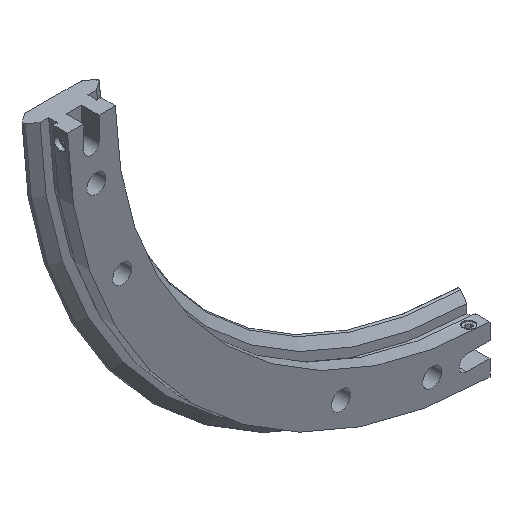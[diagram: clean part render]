
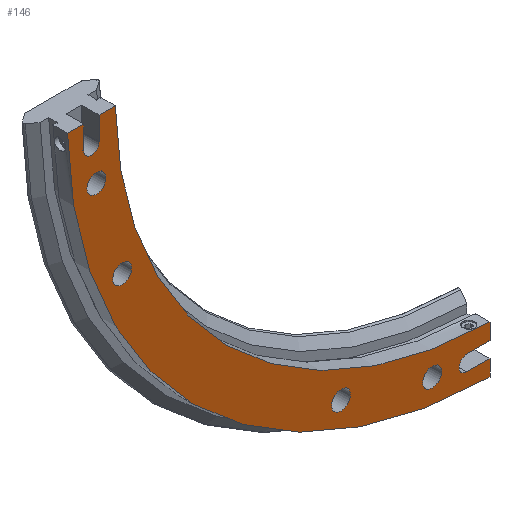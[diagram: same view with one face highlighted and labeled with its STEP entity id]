
A CAD part, isometric view. The second image highlights one B-rep face of the part: STEP entity #146.
In plain terms, the highlighted planar face has unit normal (0, -1, 0).
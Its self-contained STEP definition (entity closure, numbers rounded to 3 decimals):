
#146 = ADVANCED_FACE( '', ( #320, #321, #322, #323, #324 ), #325, .T. );
#320 = FACE_BOUND( '', #500, .T. );
#321 = FACE_BOUND( '', #501, .T. );
#322 = FACE_BOUND( '', #502, .T. );
#323 = FACE_BOUND( '', #503, .T. );
#324 = FACE_OUTER_BOUND( '', #504, .T. );
#325 = PLANE( '', #505 );
#500 = EDGE_LOOP( '', ( #1035 ) );
#501 = EDGE_LOOP( '', ( #1036 ) );
#502 = EDGE_LOOP( '', ( #1037 ) );
#503 = EDGE_LOOP( '', ( #1038 ) );
#504 = EDGE_LOOP( '', ( #1039, #1040, #1041, #1042, #1043, #1044, #1045, #1046, #1047, #1048, #1049, #1050 ) );
#505 = AXIS2_PLACEMENT_3D( '', #1051, #1052, #1053 );
#1035 = ORIENTED_EDGE( '', *, *, #1223, .F. );
#1036 = ORIENTED_EDGE( '', *, *, #1219, .F. );
#1037 = ORIENTED_EDGE( '', *, *, #1112, .F. );
#1038 = ORIENTED_EDGE( '', *, *, #1116, .F. );
#1039 = ORIENTED_EDGE( '', *, *, #1097, .T. );
#1040 = ORIENTED_EDGE( '', *, *, #1102, .T. );
#1041 = ORIENTED_EDGE( '', *, *, #1125, .T. );
#1042 = ORIENTED_EDGE( '', *, *, #1121, .T. );
#1043 = ORIENTED_EDGE( '', *, *, #1070, .T. );
#1044 = ORIENTED_EDGE( '', *, *, #1111, .T. );
#1045 = ORIENTED_EDGE( '', *, *, #1109, .T. );
#1046 = ORIENTED_EDGE( '', *, *, #1107, .T. );
#1047 = ORIENTED_EDGE( '', *, *, #1086, .T. );
#1048 = ORIENTED_EDGE( '', *, *, #1235, .F. );
#1049 = ORIENTED_EDGE( '', *, *, #1126, .T. );
#1050 = ORIENTED_EDGE( '', *, *, #1100, .T. );
#1051 = CARTESIAN_POINT( '', ( -98.8, 0., 0. ) );
#1052 = DIRECTION( '', ( 0., -1., 0. ) );
#1053 = DIRECTION( '', ( 0., 0., -1. ) );
#1070 = EDGE_CURVE( '', #1241, #1239, #1242, .T. );
#1086 = EDGE_CURVE( '', #1273, #1271, #1274, .T. );
#1097 = EDGE_CURVE( '', #1293, #1294, #1295, .T. );
#1100 = EDGE_CURVE( '', #1298, #1293, #1299, .T. );
#1102 = EDGE_CURVE( '', #1294, #1301, #1302, .T. );
#1107 = EDGE_CURVE( '', #1309, #1273, #1310, .T. );
#1109 = EDGE_CURVE( '', #1312, #1309, #1313, .T. );
#1111 = EDGE_CURVE( '', #1239, #1312, #1315, .T. );
#1112 = EDGE_CURVE( '', #1316, #1316, #1317, .T. );
#1116 = EDGE_CURVE( '', #1324, #1324, #1325, .T. );
#1121 = EDGE_CURVE( '', #1334, #1241, #1335, .T. );
#1125 = EDGE_CURVE( '', #1301, #1334, #1341, .T. );
#1126 = EDGE_CURVE( '', #1342, #1298, #1343, .T. );
#1219 = EDGE_CURVE( '', #1502, #1502, #1503, .T. );
#1223 = EDGE_CURVE( '', #1510, #1510, #1511, .T. );
#1235 = EDGE_CURVE( '', #1342, #1271, #1523, .T. );
#1239 = VERTEX_POINT( '', #1528 );
#1241 = VERTEX_POINT( '', #1531 );
#1242 = LINE( '', #1532, #1533 );
#1271 = VERTEX_POINT( '', #1596 );
#1273 = VERTEX_POINT( '', #1599 );
#1274 = LINE( '', #1600, #1601 );
#1293 = VERTEX_POINT( '', #1676 );
#1294 = VERTEX_POINT( '', #1677 );
#1295 = CIRCLE( '', #1678, 2. );
#1298 = VERTEX_POINT( '', #1683 );
#1299 = LINE( '', #1684, #1685 );
#1301 = VERTEX_POINT( '', #1688 );
#1302 = LINE( '', #1689, #1690 );
#1309 = VERTEX_POINT( '', #1700 );
#1310 = LINE( '', #1701, #1702 );
#1312 = VERTEX_POINT( '', #1705 );
#1313 = CIRCLE( '', #1706, 2. );
#1315 = LINE( '', #1709, #1710 );
#1316 = VERTEX_POINT( '', #1711 );
#1317 = CIRCLE( '', #1712, 2.45 );
#1324 = VERTEX_POINT( '', #1719 );
#1325 = CIRCLE( '', #1720, 2.45 );
#1334 = VERTEX_POINT( '', #1778 );
#1335 = CIRCLE( '', #1779, 111.2 );
#1341 = LINE( '', #1835, #1836 );
#1342 = VERTEX_POINT( '', #1837 );
#1343 = LINE( '', #1838, #1839 );
#1502 = VERTEX_POINT( '', #2154 );
#1503 = CIRCLE( '', #2155, 2.45 );
#1510 = VERTEX_POINT( '', #2162 );
#1511 = CIRCLE( '', #2163, 2.45 );
#1523 = CIRCLE( '', #2175, 98.8 );
#1528 = CARTESIAN_POINT( '', ( -1.5, 0., -107. ) );
#1531 = CARTESIAN_POINT( '', ( -1.5, 0., -111.19 ) );
#1532 = CARTESIAN_POINT( '', ( -1.5, 0., -115.185 ) );
#1533 = VECTOR( '', #2178, 1000. );
#1596 = CARTESIAN_POINT( '', ( -1.5, 0., -98.789 ) );
#1599 = CARTESIAN_POINT( '', ( -1.5, 0., -103. ) );
#1600 = CARTESIAN_POINT( '', ( -1.5, 0., -115.185 ) );
#1601 = VECTOR( '', #2188, 1000. );
#1676 = CARTESIAN_POINT( '', ( -103., 0., -7.5 ) );
#1677 = CARTESIAN_POINT( '', ( -107., 0., -7.5 ) );
#1678 = AXIS2_PLACEMENT_3D( '', #2205, #2206, #2207 );
#1683 = CARTESIAN_POINT( '', ( -103., 0., -1.5 ) );
#1684 = CARTESIAN_POINT( '', ( -103., 0., 0. ) );
#1685 = VECTOR( '', #2210, 1000. );
#1688 = CARTESIAN_POINT( '', ( -107., 0., -1.5 ) );
#1689 = CARTESIAN_POINT( '', ( -107., 0., -7.5 ) );
#1690 = VECTOR( '', #2212, 1000. );
#1700 = CARTESIAN_POINT( '', ( -7.5, 0., -103. ) );
#1701 = CARTESIAN_POINT( '', ( -7.5, 0., -103. ) );
#1702 = VECTOR( '', #2219, 1000. );
#1705 = CARTESIAN_POINT( '', ( -7.5, 0., -107. ) );
#1706 = AXIS2_PLACEMENT_3D( '', #2221, #2222, #2223 );
#1709 = CARTESIAN_POINT( '', ( 0., 0., -107. ) );
#1710 = VECTOR( '', #2225, 1000. );
#1711 = CARTESIAN_POINT( '', ( -97.007, 0., -42.632 ) );
#1712 = AXIS2_PLACEMENT_3D( '', #2226, #2227, #2228 );
#1719 = CARTESIAN_POINT( '', ( -40.182, 0., -99.457 ) );
#1720 = AXIS2_PLACEMENT_3D( '', #2238, #2239, #2240 );
#1778 = CARTESIAN_POINT( '', ( -111.19, 0., -1.5 ) );
#1779 = AXIS2_PLACEMENT_3D( '', #2250, #2251, #2252 );
#1835 = CARTESIAN_POINT( '', ( -1.5, 0., -1.5 ) );
#1836 = VECTOR( '', #2257, 1000. );
#1837 = CARTESIAN_POINT( '', ( -98.789, 0., -1.5 ) );
#1838 = CARTESIAN_POINT( '', ( -1.5, 0., -1.5 ) );
#1839 = VECTOR( '', #2258, 1000. );
#2154 = CARTESIAN_POINT( '', ( -16.5, 0., -106.145 ) );
#2155 = AXIS2_PLACEMENT_3D( '', #2357, #2358, #2359 );
#2162 = CARTESIAN_POINT( '', ( -103.695, 0., -18.95 ) );
#2163 = AXIS2_PLACEMENT_3D( '', #2369, #2370, #2371 );
#2175 = AXIS2_PLACEMENT_3D( '', #2405, #2406, #2407 );
#2178 = DIRECTION( '', ( 0., 0., 1. ) );
#2188 = DIRECTION( '', ( 0., 0., 1. ) );
#2205 = CARTESIAN_POINT( '', ( -105., 0., -7.5 ) );
#2206 = DIRECTION( '', ( 0., 1., 0. ) );
#2207 = DIRECTION( '', ( 1., 0., 0. ) );
#2210 = DIRECTION( '', ( 0., 0., -1. ) );
#2212 = DIRECTION( '', ( 0., 0., 1. ) );
#2219 = DIRECTION( '', ( 1., 0., 0. ) );
#2221 = CARTESIAN_POINT( '', ( -7.5, 0., -105. ) );
#2222 = DIRECTION( '', ( 0., 1., 0. ) );
#2223 = DIRECTION( '', ( 1., 0., 0. ) );
#2225 = DIRECTION( '', ( -1., 0., 0. ) );
#2226 = CARTESIAN_POINT( '', ( -97.007, 0., -40.182 ) );
#2227 = DIRECTION( '', ( 0., -1., 0. ) );
#2228 = DIRECTION( '', ( 0., 0., -1. ) );
#2238 = CARTESIAN_POINT( '', ( -40.182, 0., -97.007 ) );
#2239 = DIRECTION( '', ( 0., -1., 0. ) );
#2240 = DIRECTION( '', ( 0., 0., -1. ) );
#2250 = CARTESIAN_POINT( '', ( 0., 0., 0. ) );
#2251 = DIRECTION( '', ( 0., -1., 0. ) );
#2252 = DIRECTION( '', ( 0., 0., -1. ) );
#2257 = DIRECTION( '', ( -1., 0., 0. ) );
#2258 = DIRECTION( '', ( -1., 0., 0. ) );
#2357 = CARTESIAN_POINT( '', ( -16.5, 0., -103.695 ) );
#2358 = DIRECTION( '', ( 0., -1., 0. ) );
#2359 = DIRECTION( '', ( 0., 0., -1. ) );
#2369 = CARTESIAN_POINT( '', ( -103.695, 0., -16.5 ) );
#2370 = DIRECTION( '', ( 0., -1., 0. ) );
#2371 = DIRECTION( '', ( 0., 0., -1. ) );
#2405 = CARTESIAN_POINT( '', ( 0., 0., 0. ) );
#2406 = DIRECTION( '', ( 0., -1., 0. ) );
#2407 = DIRECTION( '', ( 0., 0., -1. ) );
